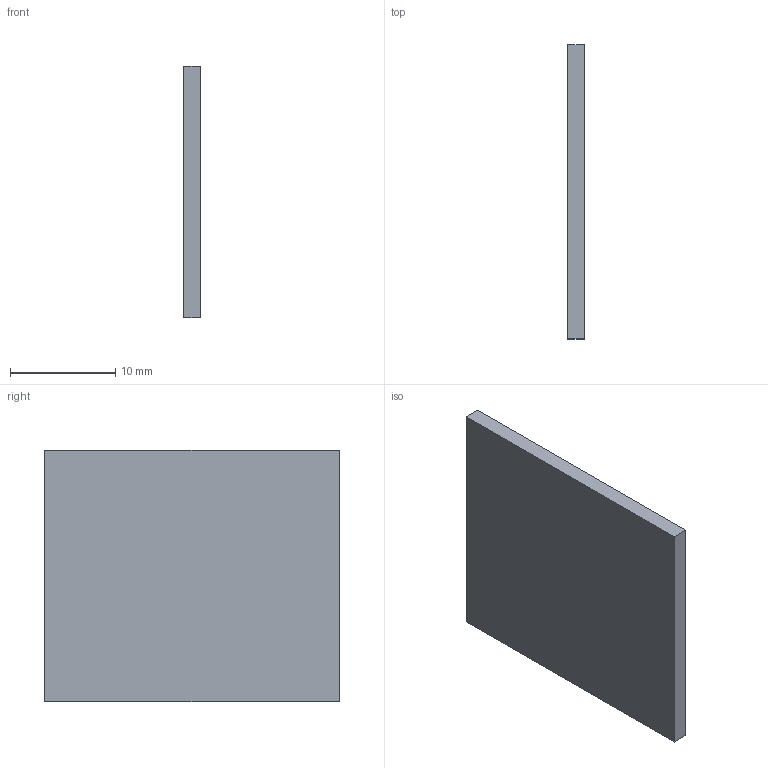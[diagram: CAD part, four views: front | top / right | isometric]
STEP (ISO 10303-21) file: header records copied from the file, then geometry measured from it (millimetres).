
FILE_DESCRIPTION(('Open CASCADE Model'),'2;1');
FILE_NAME('Open CASCADE Shape Model','2026-10-17T22:10:42',('Author'),( 'Open CASCADE'),'Open CASCADE STEP processor 7.9','Open CASCADE 7.9' ,'Unknown');
FILE_SCHEMA(('AUTOMOTIVE_DESIGN { 1 0 10303 214 1 1 1 1 }'));
Length unit declared in the file: millimetre
Products named in the file (1): Open CASCADE STEP translator 7.9 4
Bounding box: 1.6 x 28 x 23.9 mm (x, y, z)
Volume: 1070.7 mm3; surface area: 1504.5 mm2
Topology: 1 solids, 1 shells, 6 faces, 12 edges, 8 vertices
Faces by surface type: plane 6
Entity records: 322 total; most frequent: CARTESIAN_POINT 51, DIRECTION 50, LINE 36, VECTOR 36, ORIENTED_EDGE 24, PCURVE 24, DEFINITIONAL_REPRESENTATION 24, EDGE_CURVE 12
